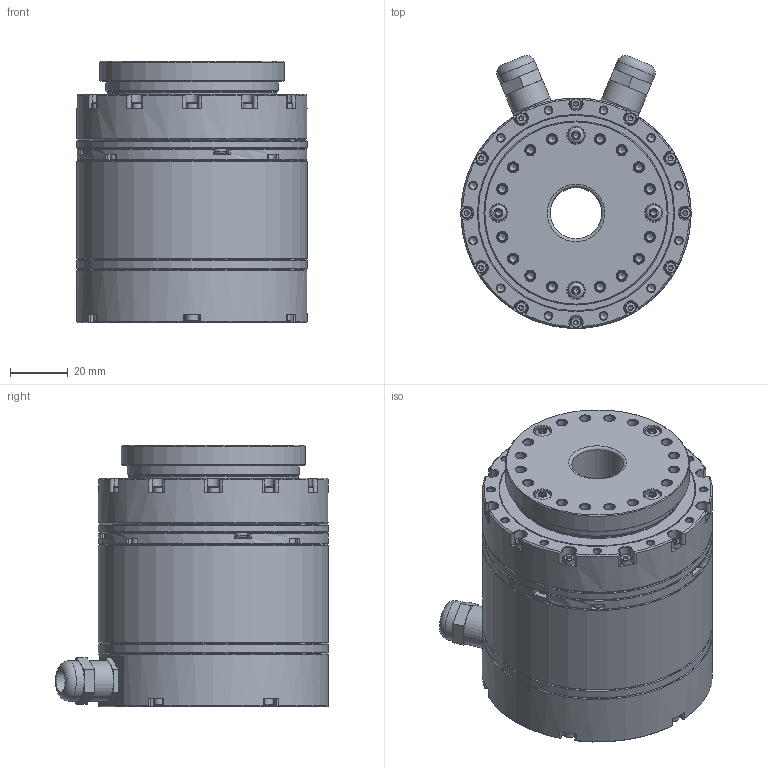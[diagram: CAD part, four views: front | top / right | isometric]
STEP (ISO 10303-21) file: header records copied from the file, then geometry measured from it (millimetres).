
FILE_DESCRIPTION(/* description */ (''),/* implementation_level */ '2;1');
FILE_NAME(/* name */ 'MIS17D-BS-C00.stp',/* time_stamp */ '2025-04-17T15:46:40+08:00',/* author */ (''),/* organization */ (''),/* preprocessor_version */ 'ST-DEVELOPER v16.7',/* originating_system */ 'SIEMENS PLM Software NX 12.0',/* authorisation */ '');
FILE_SCHEMA (('AUTOMOTIVE_DESIGN { 1 0 10303 214 3 1 1 1 }'));
Length unit declared in the file: millimetre
Products named in the file (1): MIS17D-BS-C00
Bounding box: 80 x 94.88 x 91 mm (x, y, z)
Volume: 196718.9 mm3; surface area: 141213.2 mm2
Topology: 53 solids, 57 shells, 2367 faces, 5174 edges, 3012 vertices
Faces by surface type: plane 891, cone 887, cylinder 495, torus 92, sphere 2
Full cylindrical faces by diameter (mm): 1.25 x4, 1.496 x3, 1.6 x10, 1.886 x22, 2 x2, 2.05 x30, 2.2 x6, 2.3 x4, 2.38 x6, 2.4 x4, 2.5 x76, 2.7 x12, 2.8 x2, 2.874 x8, 3 x7, 3.3 x8, 3.5 x42, 3.8 x16, 4.5 x10, 5.5 x4, 6 x4, 8 x8, 12 x6, 14 x4, 18 x1, 19 x1, 20 x1, 28 x1, 33.5 x1, 34 x1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
Entity records: 60082 total; most frequent: CARTESIAN_POINT 11260, DIRECTION 10604, ORIENTED_EDGE 7970, AXIS2_PLACEMENT_3D 4595, EDGE_CURVE 3985, EDGE_LOOP 3678, VERTEX_POINT 2843, FACE_BOUND 2512
